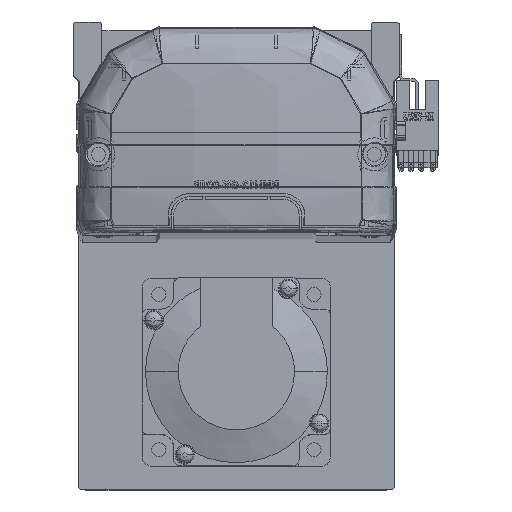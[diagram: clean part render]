
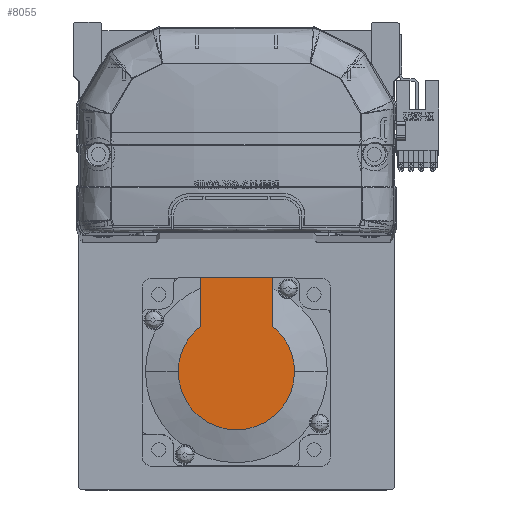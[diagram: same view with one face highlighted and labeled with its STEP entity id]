
A CAD part, top view. The second image highlights one B-rep face of the part: STEP entity #8055.
In plain terms, the highlighted planar face has unit normal (0, 0, 1) as drawn and (-1, 0, 0) by its records, which use the part's own axes.
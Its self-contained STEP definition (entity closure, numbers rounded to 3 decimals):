
#31 = VECTOR ( 'NONE', #42313, 1000. ) ;
#333 = VECTOR ( 'NONE', #44331, 1000. ) ;
#617 = EDGE_CURVE ( 'NONE', #16439, #47194, #45702, .T. ) ;
#4501 = DIRECTION ( 'NONE',  ( 0., 0., 1. ) ) ;
#4921 = CARTESIAN_POINT ( 'NONE',  ( -79., -9.269, 0. ) ) ;
#5095 = CARTESIAN_POINT ( 'NONE',  ( -79., 0., 0. ) ) ;
#5639 = CARTESIAN_POINT ( 'NONE',  ( -79., 30., 27. ) ) ;
#5771 = EDGE_CURVE ( 'NONE', #7796, #59924, #37863, .T. ) ;
#5978 = CARTESIAN_POINT ( 'NONE',  ( -79., -9.269, -11.45 ) ) ;
#7386 = EDGE_CURVE ( 'NONE', #47194, #61658, #36918, .T. ) ;
#7796 = VERTEX_POINT ( 'NONE', #38295 ) ;
#8055 = ADVANCED_FACE ( 'NONE', ( #25101 ), #52214, .T. ) ;
#10405 = DIRECTION ( 'NONE',  ( 0., 0., -1. ) ) ;
#11165 = AXIS2_PLACEMENT_3D ( 'NONE', #23788, #57256, #33369 ) ;
#12657 = ORIENTED_EDGE ( 'NONE', *, *, #50596, .F. ) ;
#16023 = DIRECTION ( 'NONE',  ( 0., -1., 0. ) ) ;
#16439 = VERTEX_POINT ( 'NONE', #25929 ) ;
#17021 = CARTESIAN_POINT ( 'NONE',  ( -79., 30., 11.45 ) ) ;
#18137 = CARTESIAN_POINT ( 'NONE',  ( -79., 0., -18.538 ) ) ;
#18524 = AXIS2_PLACEMENT_3D ( 'NONE', #38456, #52920, #10405 ) ;
#19042 = EDGE_LOOP ( 'NONE', ( #61438, #52889, #49980, #39855, #23859, #12657 ) ) ;
#23788 = CARTESIAN_POINT ( 'NONE',  ( -79., 0., 0. ) ) ;
#23859 = ORIENTED_EDGE ( 'NONE', *, *, #53747, .F. ) ;
#24069 = CIRCLE ( 'NONE', #11165, 18.538 ) ;
#25101 = FACE_OUTER_BOUND ( 'NONE', #19042, .T. ) ;
#25929 = CARTESIAN_POINT ( 'NONE',  ( -79., 30., -11.45 ) ) ;
#28406 = CARTESIAN_POINT ( 'NONE',  ( -79., 14.579, -11.45 ) ) ;
#28930 = VERTEX_POINT ( 'NONE', #17021 ) ;
#30670 = LINE ( 'NONE', #42100, #31 ) ;
#33369 = DIRECTION ( 'NONE',  ( 0., 0., -1. ) ) ;
#36702 = VECTOR ( 'NONE', #16023, 1000. ) ;
#36918 = CIRCLE ( 'NONE', #18524, 18.538 ) ;
#37307 = AXIS2_PLACEMENT_3D ( 'NONE', #5095, #38944, #39136 ) ;
#37863 = CIRCLE ( 'NONE', #37307, 18.538 ) ;
#38295 = CARTESIAN_POINT ( 'NONE',  ( -79., 0., 18.538 ) ) ;
#38456 = CARTESIAN_POINT ( 'NONE',  ( -79., 0., 0. ) ) ;
#38944 = DIRECTION ( 'NONE',  ( -1., 0., 0. ) ) ;
#39136 = DIRECTION ( 'NONE',  ( 0., 0., -1. ) ) ;
#39855 = ORIENTED_EDGE ( 'NONE', *, *, #5771, .T. ) ;
#42100 = CARTESIAN_POINT ( 'NONE',  ( -79., 0., 11.45 ) ) ;
#42313 = DIRECTION ( 'NONE',  ( 0., -1., 0. ) ) ;
#44331 = DIRECTION ( 'NONE',  ( 0., 0., 1. ) ) ;
#44789 = EDGE_CURVE ( 'NONE', #61658, #7796, #24069, .T. ) ;
#45702 = LINE ( 'NONE', #5978, #36702 ) ;
#46671 = AXIS2_PLACEMENT_3D ( 'NONE', #4921, #53021, #4501 ) ;
#47194 = VERTEX_POINT ( 'NONE', #28406 ) ;
#48990 = LINE ( 'NONE', #5639, #333 ) ;
#49980 = ORIENTED_EDGE ( 'NONE', *, *, #44789, .T. ) ;
#50596 = EDGE_CURVE ( 'NONE', #16439, #28930, #48990, .T. ) ;
#52214 = PLANE ( 'NONE',  #46671 ) ;
#52889 = ORIENTED_EDGE ( 'NONE', *, *, #7386, .T. ) ;
#52920 = DIRECTION ( 'NONE',  ( -1., 0., 0. ) ) ;
#53021 = DIRECTION ( 'NONE',  ( -1., 0., 0. ) ) ;
#53747 = EDGE_CURVE ( 'NONE', #28930, #59924, #30670, .T. ) ;
#57256 = DIRECTION ( 'NONE',  ( -1., 0., 0. ) ) ;
#59924 = VERTEX_POINT ( 'NONE', #61430 ) ;
#61430 = CARTESIAN_POINT ( 'NONE',  ( -79., 14.579, 11.45 ) ) ;
#61438 = ORIENTED_EDGE ( 'NONE', *, *, #617, .T. ) ;
#61658 = VERTEX_POINT ( 'NONE', #18137 ) ;
